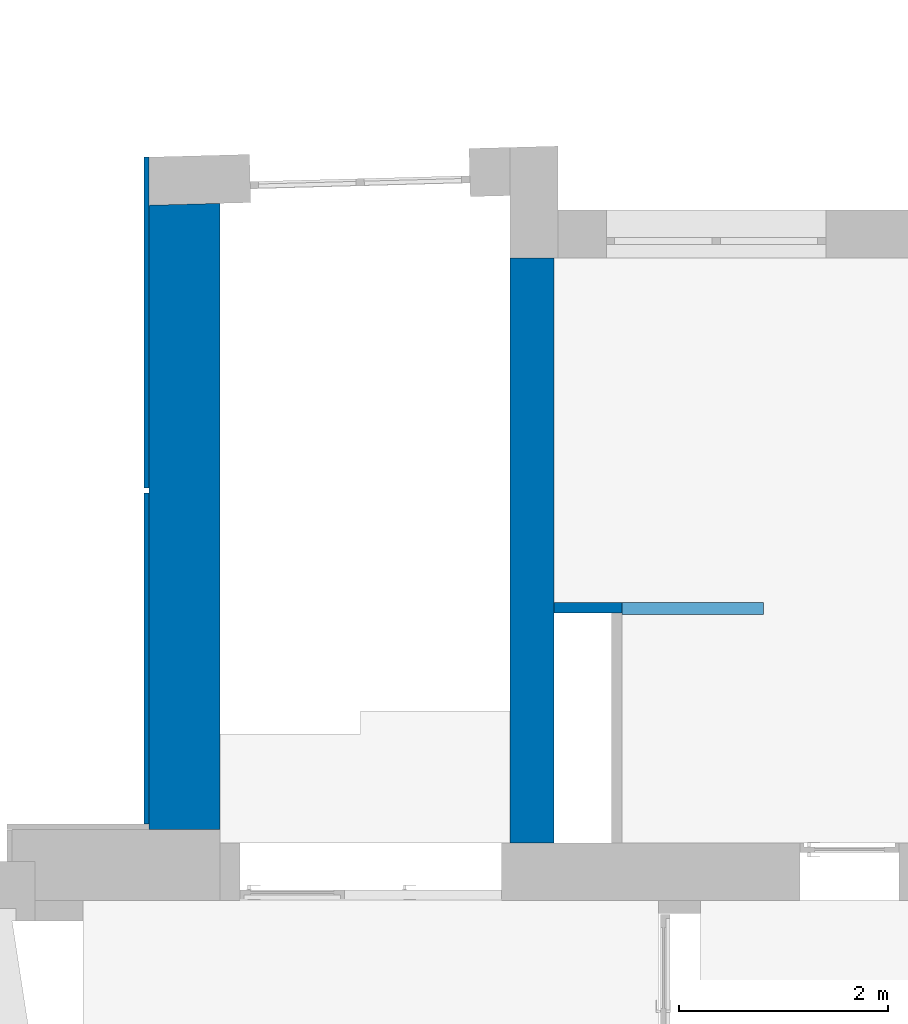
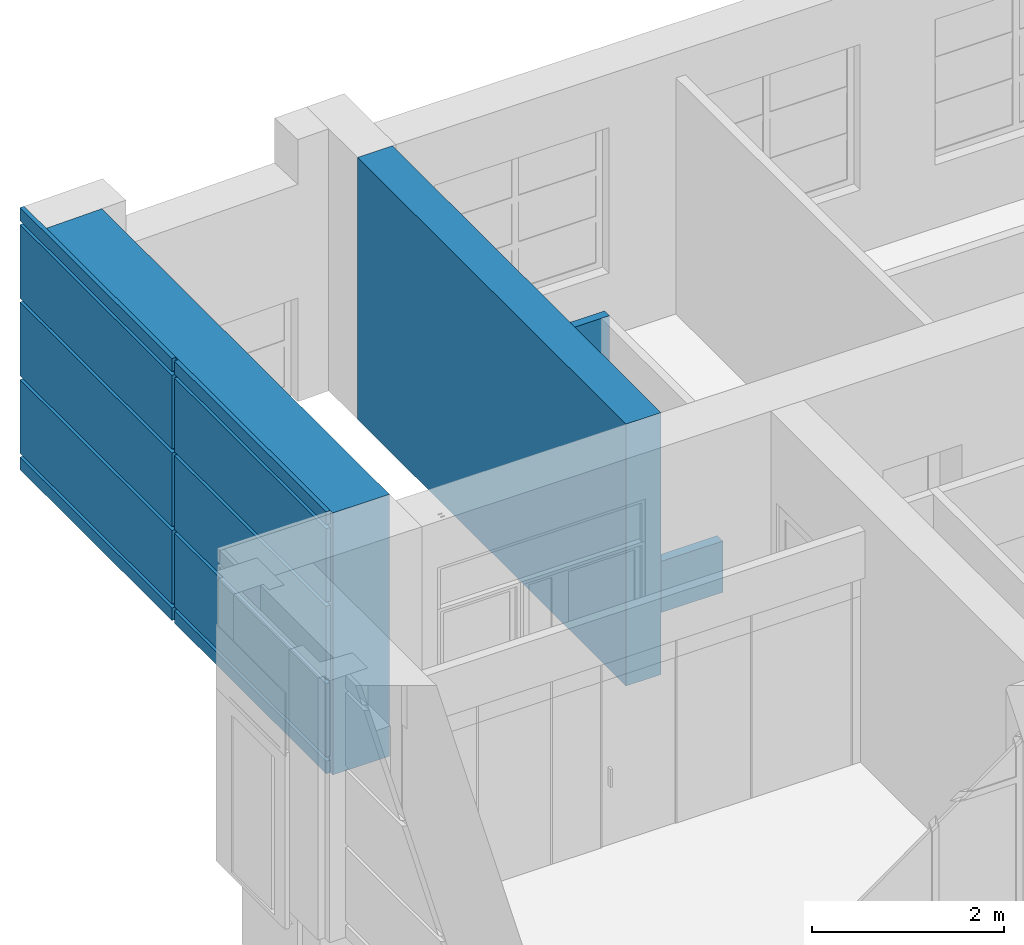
# One storey, part 51 of 73: 5 walls.
"""IFC2X3 building model written with IfcOpenShell, lengths in millimetres."""

from ifc_helpers import new_model, entity, si_unit, converted_unit, derived_unit, direction, frame, frame_2d, origin, origin_2d_with_axis, place, context, subcontext, project, spatial, polyline, rectangle, outline, extrude, clip, bounded_halfspace, material, layer, layer_set, layer_usage, type_object, element, save


model = new_model("IFC2X3")

# Units and contexts
model_context = context("Model", 3, precision=0.01, world=origin(), true_north=direction((6.12303176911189e-17, 1.0)))
body_context = subcontext(model_context, "Body", "Model", "MODEL_VIEW")
ifc_project = project(units=[si_unit("LENGTHUNIT", "METRE", prefix="MILLI"), si_unit("AREAUNIT", "SQUARE_METRE"), si_unit("VOLUMEUNIT", "CUBIC_METRE"), converted_unit("PLANEANGLEUNIT", "DEGREE", entity("IfcRatioMeasure", 0.0174532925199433), si_unit("PLANEANGLEUNIT", "RADIAN"), dimensions=[0, 0, 0, 0, 0, 0, 0]), si_unit("MASSUNIT", "GRAM", prefix="KILO"), derived_unit("MASSDENSITYUNIT", [(si_unit("MASSUNIT", "GRAM", prefix="KILO"), 1), (si_unit("LENGTHUNIT", "METRE"), -3)]), si_unit("TIMEUNIT", "SECOND"), si_unit("FREQUENCYUNIT", "HERTZ"), si_unit("THERMODYNAMICTEMPERATUREUNIT", "DEGREE_CELSIUS"), derived_unit("THERMALTRANSMITTANCEUNIT", [(si_unit("MASSUNIT", "GRAM", prefix="KILO"), 1), (si_unit("THERMODYNAMICTEMPERATUREUNIT", "KELVIN"), -1), (si_unit("TIMEUNIT", "SECOND"), -3)]), derived_unit("VOLUMETRICFLOWRATEUNIT", [(si_unit("LENGTHUNIT", "METRE"), 3), (si_unit("TIMEUNIT", "SECOND"), -1)]), si_unit("ELECTRICCURRENTUNIT", "AMPERE"), si_unit("ELECTRICVOLTAGEUNIT", "VOLT"), si_unit("POWERUNIT", "WATT"), si_unit("FORCEUNIT", "NEWTON", prefix="KILO"), si_unit("ILLUMINANCEUNIT", "LUX"), si_unit("LUMINOUSFLUXUNIT", "LUMEN"), si_unit("LUMINOUSINTENSITYUNIT", "CANDELA"), derived_unit("USERDEFINED", [(si_unit("MASSUNIT", "GRAM", prefix="KILO"), -1), (si_unit("LENGTHUNIT", "METRE"), -2), (si_unit("TIMEUNIT", "SECOND"), 3), (si_unit("LUMINOUSFLUXUNIT", "LUMEN"), 1)]), derived_unit("LINEARVELOCITYUNIT", [(si_unit("LENGTHUNIT", "METRE"), 1), (si_unit("TIMEUNIT", "SECOND"), -1)]), si_unit("PRESSUREUNIT", "PASCAL"), derived_unit("USERDEFINED", [(si_unit("LENGTHUNIT", "METRE"), -2), (si_unit("MASSUNIT", "GRAM", prefix="KILO"), 1), (si_unit("TIMEUNIT", "SECOND"), -2)])], contexts=[model_context])

# Site, building, storey
site_placement = place(None, frame((-151.875543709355, 2715.0, 0.0)))
site = spatial("IfcSite", under=ifc_project, at=site_placement, Name="Surface", CompositionType="ELEMENT")
building_placement = place(site_placement, origin())
building = spatial("IfcBuilding", under=site, at=building_placement, CompositionType="ELEMENT")
storey_placement = place(building_placement, frame((0.0, 0.0, 6730.43000000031)))
storey = spatial("IfcBuildingStorey", under=building, at=storey_placement, Name="3 korrus", CompositionType="ELEMENT", Elevation=6730.43000000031)

# Walls
ifc_material_1 = material(Name="__Kips GN13_tava")
ifc_layer_1 = layer(ifc_material_1, 20.0)
ifc_material_2 = material(Name="Brick, Common")
ifc_layer_2 = layer(ifc_material_2, 380.0)
ifc_layer_3 = layer(ifc_material_1, 20.0)
ifc_layer_set_1 = layer_set([ifc_layer_1, ifc_layer_2, ifc_layer_3], Name="Basic Wall:SS-1_420mm")
ifc_layer_usage_1 = layer_usage(ifc_layer_set_1, "AXIS2", "NEGATIVE", 210.0)
wall_type_1 = type_object("IfcWallType", Name="Basic Wall:SS-1_420mm", PredefinedType="STANDARD", material=ifc_layer_set_1)
wall_1_placement = place(storey_placement, frame((4750.07439884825, 12150.0, 0.00203353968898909), z_axis=(0.0, 0.0, 1.0), x_axis=(0.0, -1.0, 0.0)))
element("IfcWallStandardCase", 1, at=wall_1_placement, inside=storey, type_object=wall_type_1, material=ifc_layer_usage_1, Name="SEIN - 005", ObjectType="Basic Wall:SS-1_420mm", context=body_context, shape_type="SweptSolid", body=[
    extrude(rectangle(XDim=5590.0, YDim=420.0, at=frame_2d((2795.0, 4.2632564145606e-14), x_axis=(-1.0, 0.0))), origin(), (0.0, 0.0, 1.0), 3329.56796646),
])
ifc_material_3 = material(Name="__Tuuletõkkeplaat")
ifc_layer_4 = layer(ifc_material_3, 9.0)
ifc_material_4 = material(Name="__Soojustus EPS")
ifc_layer_5 = layer(ifc_material_4, 200.0)
ifc_layer_6 = layer(ifc_material_2, 450.0)
ifc_layer_7 = layer(ifc_material_1, 20.0)
ifc_layer_set_2 = layer_set([ifc_layer_4, ifc_layer_5, ifc_layer_6, ifc_layer_7], Name="Basic Wall:VS-2_olemasolev sein fassaadikassettidega")
ifc_layer_usage_2 = layer_usage(ifc_layer_set_2, "AXIS2", "NEGATIVE", 339.5)
wall_type_2 = type_object("IfcWallType", Name="Basic Wall:VS-2_olemasolev sein fassaadikassettidega", PredefinedType="STANDARD", material=ifc_layer_set_2)
wall_2_placement = place(storey_placement, frame((1430.5, 6689.0, 0.00203353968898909), z_axis=(0.0, 0.0, 1.0), x_axis=(0.0, 1.0, 0.0)))
element("IfcWallStandardCase", 2, at=wall_2_placement, inside=storey, type_object=wall_type_2, material=ifc_layer_usage_2, Name="SEIN - 003", ObjectType="Basic Wall:VS-2_olemasolev sein fassaadikassettidega", context=body_context, shape_type="SweptSolid", body=[
    extrude(outline(polyline([(5985.80074269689, -339.5), (5967.55048379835, 339.5), (0.0, 339.5), (0.0, -339.5), (5985.80074269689, -339.5)])), origin(), (0.0, 0.0, 1.0), 3329.56796646),
])
ifc_layer_8 = layer(ifc_material_1, 12.5)
ifc_layer_9 = layer(ifc_material_1, 12.5)
ifc_layer_10 = layer(ifc_material_4, 66.0)
ifc_layer_11 = layer(ifc_material_1, 12.5)
ifc_layer_12 = layer(ifc_material_1, 12.5)
ifc_layer_set_3 = layer_set([ifc_layer_8, ifc_layer_9, ifc_layer_10, ifc_layer_11, ifc_layer_12], Name="Basic Wall:SS-3_Kipssein tava ruumide vahel")
ifc_layer_usage_3 = layer_usage(ifc_layer_set_3, "AXIS2", "NEGATIVE", 58.0)
wall_type_3 = type_object("IfcWallType", Name="Basic Wall:SS-3_Kipssein tava ruumide vahel", PredefinedType="STANDARD", material=ifc_layer_set_3)
wall_3_placement = place(storey_placement, frame((6965.13585697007, 8802.0, -980.429999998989), z_axis=(0.0, 0.0, 1.0), x_axis=(-1.0, 0.0, 0.0)))
element("IfcWallStandardCase", 3, at=wall_3_placement, inside=storey, type_object=wall_type_3, material=ifc_layer_usage_3, Name="Basic Wall:SS-3_Kipssein tava ruumide vahel", ObjectType="Basic Wall:SS-3_Kipssein tava ruumide vahel", context=body_context, shape_type="SweptSolid", body=[
    extrude(rectangle(XDim=1355.06145812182, YDim=116.0, at=frame_2d((677.530729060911, 7.105427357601e-15), x_axis=(-1.0, 0.0))), origin(), (0.0, 0.0, 1.0), 650.432033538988),
])
ifc_material_5 = material(Name="__Helehall")
ifc_layer_13 = layer(ifc_material_5, 10.0)
ifc_material_6 = material(Name="__Kergblokk")
ifc_layer_14 = layer(ifc_material_6, 90.0)
ifc_layer_set_4 = layer_set([ifc_layer_13, ifc_layer_14], Name="Basic Wall:SS-6_Šahti sein EI-60")
ifc_layer_usage_4 = layer_usage(ifc_layer_set_4, "AXIS2", "NEGATIVE", 50.0)
wall_type_4 = type_object("IfcWallType", Name="Basic Wall:SS-6_Šahti sein EI-60", PredefinedType="STANDARD", material=ifc_layer_set_4)
wall_4_placement = place(storey_placement, frame((4960.07439884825, 8810.0, 0.0)))
element("IfcWallStandardCase", 4, at=wall_4_placement, inside=storey, type_object=wall_type_4, material=ifc_layer_usage_4, Name="Basic Wall:SS-6_Šahti sein EI-60", ObjectType="Basic Wall:SS-6_Šahti sein EI-60", context=body_context, shape_type="Clipping", body=[
    clip(extrude(rectangle(XDim=650.68861649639, YDim=99.9999999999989, at=frame_2d((325.344308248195, 1.63424829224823e-13), x_axis=(-1.0, 0.0))), origin(), (0.0, 0.0, 1.0), 2999.57000000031), bounded_halfspace(frame((0.798530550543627, -50.0, 2999.57000000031), z_axis=(0.0, 0.0, -1.0), x_axis=(-1.0, 0.0, 0.0)), True, frame((0.798530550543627, -50.0, 2999.57000000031)), polyline([(0.0, 0.0), (549.890085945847, 0.0), (649.890085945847, 0.0), (649.890085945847, 100.0), (0.0, 100.0), (0.0, 0.0)]))),
])
ifc_material_7 = material(Name="Steel/Aluminium")
wall_type_5 = type_object("IfcWallType", Name="fassaad9.1:fassaad9.1", PredefinedType="NOTDEFINED", material=ifc_material_7)
wall_5_placement = place(storey_placement, frame((1041.0, 6741.71661374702, 0.0), z_axis=(0.0, 0.0, 1.0), x_axis=(0.0, 1.0, 0.0)))
element("IfcWall", 5, at=wall_5_placement, inside=storey, type_object=wall_type_5, material=ifc_material_7, Name="fassaad9.1:fassaad9.1", ObjectType="fassaad9.1:fassaad9.1", context=body_context, shape_type="SweptSolid", body=[
    extrude(rectangle(XDim=50.0, YDim=3162.5, at=origin_2d_with_axis()), frame((4793.75, -25.0, 0.0), z_axis=(0.0, 0.0, 1.0), x_axis=(0.0, -1.0, 0.0)), (0.0, 0.0, 1.0), 159.115269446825),
    extrude(rectangle(XDim=50.0, YDim=3162.50000000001, at=origin_2d_with_axis()), frame((1581.25, -25.0, 0.0), z_axis=(0.0, 0.0, 1.0), x_axis=(0.0, -1.0, 0.0)), (0.0, 0.0, 1.0), 159.115269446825),
    extrude(rectangle(XDim=50.0, YDim=3162.5, at=frame_2d((-6.92779167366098e-14, 0.0), x_axis=(1.0, 0.0))), frame((4793.75, -25.0, 209.115269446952), z_axis=(0.0, 0.0, 1.0), x_axis=(0.0, -1.0, 0.0)), (0.0, 0.0, 1.0), 934.999999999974),
    extrude(rectangle(XDim=50.0, YDim=3162.5, at=frame_2d((6.92779167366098e-14, 0.0), x_axis=(1.0, 0.0))), frame((1581.25000000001, -25.0, 209.115269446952), z_axis=(0.0, 0.0, 1.0), x_axis=(0.0, -1.0, 0.0)), (0.0, 0.0, 1.0), 934.999999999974),
    extrude(rectangle(XDim=50.0, YDim=3162.5, at=frame_2d((0.0, 1.13686837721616e-12), x_axis=(1.0, 0.0))), frame((1581.25, -25.0, 3164.11526944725), z_axis=(0.0, 0.0, 1.0), x_axis=(0.0, -1.0, 0.0)), (0.0, 0.0, 1.0), 165.884730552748),
    extrude(rectangle(XDim=50.0, YDim=3162.5, at=frame_2d((-1.36779476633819e-13, 0.0), x_axis=(1.0, 0.0))), frame((4793.75, -25.0, 3164.11526944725), z_axis=(0.0, 0.0, 1.0), x_axis=(0.0, -1.0, 0.0)), (0.0, 0.0, 1.0), 165.884730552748),
    extrude(rectangle(XDim=50.0, YDim=3162.5, at=origin_2d_with_axis()), frame((1581.25, -25.0, 2179.11526944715), z_axis=(0.0, 0.0, 1.0), x_axis=(0.0, -1.0, 0.0)), (0.0, 0.0, 1.0), 934.999999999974),
    extrude(rectangle(XDim=50.0, YDim=3162.5, at=frame_2d((-6.92779167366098e-14, 1.02318153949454e-12), x_axis=(1.0, 0.0))), frame((4793.75, -25.0, 2179.11526944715), z_axis=(0.0, 0.0, 1.0), x_axis=(0.0, -1.0, 0.0)), (0.0, 0.0, 1.0), 934.999999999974),
    extrude(rectangle(XDim=50.0, YDim=3162.5, at=frame_2d((0.0, -1.13686837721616e-12), x_axis=(1.0, 0.0))), frame((1581.25000000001, -25.0, 1194.11526944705), z_axis=(0.0, 0.0, 1.0), x_axis=(0.0, -1.0, 0.0)), (0.0, 0.0, 1.0), 934.999999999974),
    extrude(rectangle(XDim=50.0, YDim=3162.5, at=frame_2d((0.0, -1.02318153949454e-12), x_axis=(1.0, 0.0))), frame((4793.75000000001, -25.0, 1194.11526944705), z_axis=(0.0, 0.0, 1.0), x_axis=(0.0, -1.0, 0.0)), (0.0, 0.0, 1.0), 934.999999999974),
])

save(model, "model.ifc")
